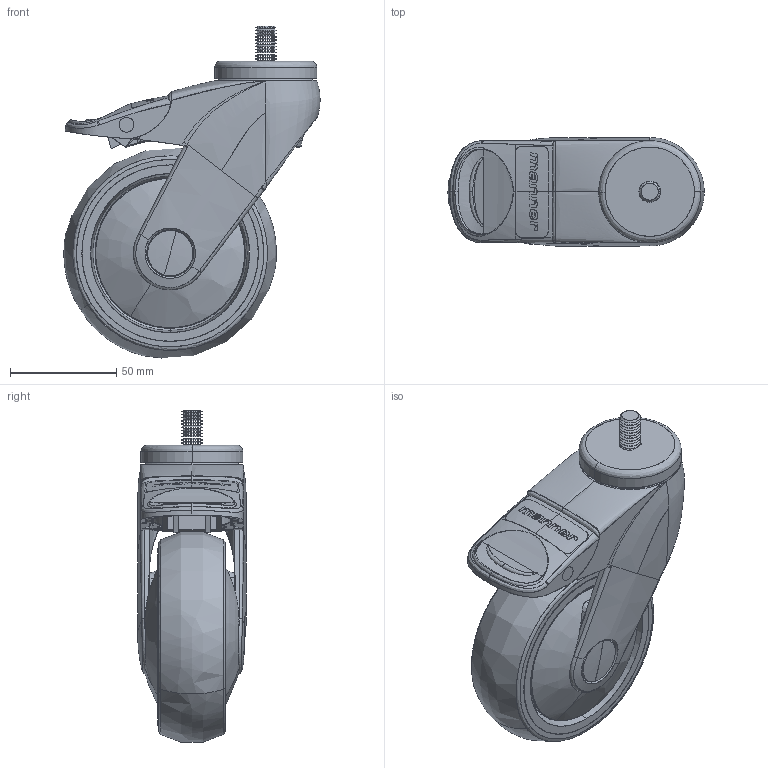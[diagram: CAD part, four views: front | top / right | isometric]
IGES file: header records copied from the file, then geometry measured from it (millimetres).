
Start section: SolidWorks IGES file using analytic representation for surfaces
Global section: file name: S:\Tyokansio\VL\301703_IGES.IGS; native system: SolidWorks 2011; preprocessor: SolidWorks 2011; author: VilleLa; date: 110620.121741; units: millimetre
Bounding box: 120.58 x 51.27 x 156.19 mm (x, y, z)
Surface area: 90275.1 mm2 (no closed solid volume)
Topology: 0 solids, 0 shells, 725 faces, 12037 edges, 12019 vertices
Faces by surface type: bspline 531, revolution 194
